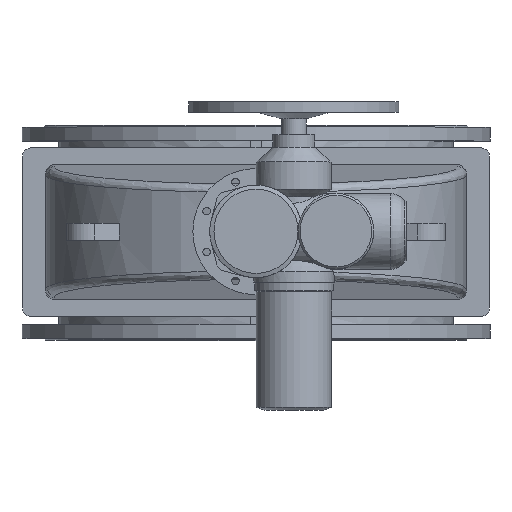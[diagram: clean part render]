
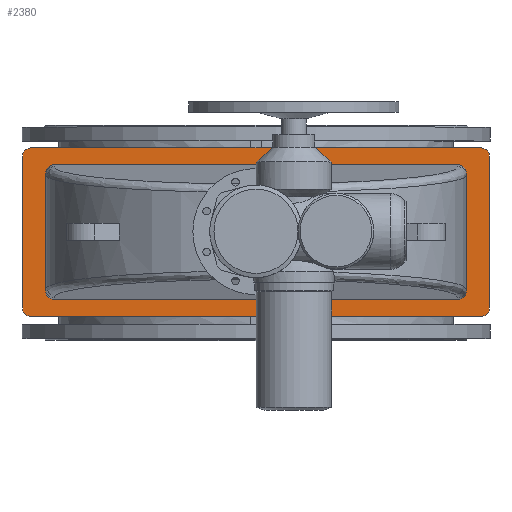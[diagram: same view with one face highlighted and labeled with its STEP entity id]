
A CAD part, top view. The second image highlights one B-rep face of the part: STEP entity #2380.
In plain terms, the highlighted planar face has unit normal (0, 0, 1).
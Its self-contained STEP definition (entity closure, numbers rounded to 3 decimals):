
#2380=ADVANCED_FACE('',(#8138,#8140),#8142,.T.);
#8138=FACE_BOUND('',#8139,.T.);
#8139=EDGE_LOOP('',(#11024,#11025,#11026,#11027,#11028,#11029,#11030,#11031));
#8140=FACE_BOUND('',#8141,.T.);
#8141=EDGE_LOOP('',(#11032,#11033,#11034,#11035,#11036,#11037,#11038,#11039));
#8142=PLANE('',#8143);
#8143=AXIS2_PLACEMENT_3D('',#8144,#8145,#8146);
#8144=CARTESIAN_POINT('',(0.,0.,1016.));
#8145=DIRECTION('',(0.,-0.,1.));
#8146=DIRECTION('',(0.,1.,0.));
#11024=ORIENTED_EDGE('',*,*,#12160,.F.);
#11025=ORIENTED_EDGE('',*,*,#12173,.T.);
#11026=ORIENTED_EDGE('',*,*,#12172,.F.);
#11027=ORIENTED_EDGE('',*,*,#12170,.T.);
#11028=ORIENTED_EDGE('',*,*,#12168,.F.);
#11029=ORIENTED_EDGE('',*,*,#12166,.T.);
#11030=ORIENTED_EDGE('',*,*,#12164,.F.);
#11031=ORIENTED_EDGE('',*,*,#12161,.T.);
#11032=ORIENTED_EDGE('',*,*,#12174,.F.);
#11033=ORIENTED_EDGE('',*,*,#12175,.F.);
#11034=ORIENTED_EDGE('',*,*,#12176,.F.);
#11035=ORIENTED_EDGE('',*,*,#12177,.F.);
#11036=ORIENTED_EDGE('',*,*,#12178,.F.);
#11037=ORIENTED_EDGE('',*,*,#12179,.F.);
#11038=ORIENTED_EDGE('',*,*,#12180,.F.);
#11039=ORIENTED_EDGE('',*,*,#12181,.F.);
#12160=EDGE_CURVE('',#13446,#13444,#13448,.F.);
#12161=EDGE_CURVE('',#13449,#13444,#13450,.T.);
#12164=EDGE_CURVE('',#13449,#13452,#13454,.F.);
#12166=EDGE_CURVE('',#13455,#13452,#13457,.T.);
#12168=EDGE_CURVE('',#13455,#13458,#13460,.F.);
#12170=EDGE_CURVE('',#13461,#13458,#13463,.T.);
#12172=EDGE_CURVE('',#13461,#13464,#13466,.F.);
#12173=EDGE_CURVE('',#13446,#13464,#13467,.T.);
#12174=EDGE_CURVE('',#13468,#13469,#13470,.F.);
#12175=EDGE_CURVE('',#13471,#13468,#13472,.T.);
#12176=EDGE_CURVE('',#13473,#13471,#13474,.T.);
#12177=EDGE_CURVE('',#13475,#13473,#13476,.T.);
#12178=EDGE_CURVE('',#13477,#13475,#13478,.F.);
#12179=EDGE_CURVE('',#13479,#13477,#13480,.T.);
#12180=EDGE_CURVE('',#13481,#13479,#13482,.T.);
#12181=EDGE_CURVE('',#13469,#13481,#13483,.T.);
#13444=VERTEX_POINT('',#17076);
#13446=VERTEX_POINT('',#17080);
#13448=CIRCLE('',#17084,20.);
#13449=VERTEX_POINT('',#17088);
#13450=LINE('',#17089,#17090);
#13452=VERTEX_POINT('',#17095);
#13454=CIRCLE('',#17099,20.);
#13455=VERTEX_POINT('',#17103);
#13457=LINE('',#17107,#17108);
#13458=VERTEX_POINT('',#17110);
#13460=CIRCLE('',#17114,20.);
#13461=VERTEX_POINT('',#17118);
#13463=LINE('',#17122,#17123);
#13464=VERTEX_POINT('',#17125);
#13466=CIRCLE('',#17129,20.);
#13467=LINE('',#17133,#17134);
#13468=VERTEX_POINT('',#17136);
#13469=VERTEX_POINT('',#17137);
#13470=(BOUNDED_CURVE()B_SPLINE_CURVE(3,
(#17138,#17139,#17140,#17141),
.UNSPECIFIED.,.F.,.F.)B_SPLINE_CURVE_WITH_KNOTS((4,4),
(0.,1.),
.UNSPECIFIED.)CURVE()GEOMETRIC_REPRESENTATION_ITEM()RATIONAL_B_SPLINE_CURVE((1.,
0.805,0.805,1.))REPRESENTATION_ITEM(''));
#13471=VERTEX_POINT('',#17142);
#13472=LINE('',#17143,#17144);
#13473=VERTEX_POINT('',#17146);
#13474=(BOUNDED_CURVE()B_SPLINE_CURVE(3,
(#17147,#17148,#17149,#17150),
.UNSPECIFIED.,.F.,.F.)B_SPLINE_CURVE_WITH_KNOTS((4,4),
(0.,1.),
.UNSPECIFIED.)CURVE()GEOMETRIC_REPRESENTATION_ITEM()RATIONAL_B_SPLINE_CURVE((1.,
0.805,0.805,1.))REPRESENTATION_ITEM(''));
#13475=VERTEX_POINT('',#17151);
#13476=LINE('',#17152,#17153);
#13477=VERTEX_POINT('',#17155);
#13478=(BOUNDED_CURVE()B_SPLINE_CURVE(3,
(#17156,#17157,#17158,#17159),
.UNSPECIFIED.,.F.,.F.)B_SPLINE_CURVE_WITH_KNOTS((4,4),
(0.,1.),
.UNSPECIFIED.)CURVE()GEOMETRIC_REPRESENTATION_ITEM()RATIONAL_B_SPLINE_CURVE((1.,
0.805,0.805,1.))REPRESENTATION_ITEM(''));
#13479=VERTEX_POINT('',#17160);
#13480=LINE('',#17161,#17162);
#13481=VERTEX_POINT('',#17164);
#13482=(BOUNDED_CURVE()B_SPLINE_CURVE(3,
(#17165,#17166,#17167,#17168),
.UNSPECIFIED.,.F.,.F.)B_SPLINE_CURVE_WITH_KNOTS((4,4),
(0.,1.),
.UNSPECIFIED.)CURVE()GEOMETRIC_REPRESENTATION_ITEM()RATIONAL_B_SPLINE_CURVE((1.,
0.805,0.805,1.))REPRESENTATION_ITEM(''));
#13483=LINE('',#17169,#17170);
#17076=CARTESIAN_POINT('',(-555.,-180.,1016.));
#17080=CARTESIAN_POINT('',(-535.,-200.,1016.));
#17084=AXIS2_PLACEMENT_3D('',#17085,#17086,#17087);
#17085=CARTESIAN_POINT('',(-535.,-180.,1016.));
#17086=DIRECTION('',(0.,-0.,1.));
#17087=DIRECTION('',(-1.,0.,0.));
#17088=CARTESIAN_POINT('',(-555.,180.,1016.));
#17089=CARTESIAN_POINT('',(-555.,180.,1016.));
#17090=VECTOR('',#17091,1.);
#17091=DIRECTION('',(0.,-1.,0.));
#17095=CARTESIAN_POINT('',(-535.,200.,1016.));
#17099=AXIS2_PLACEMENT_3D('',#17100,#17101,#17102);
#17100=CARTESIAN_POINT('',(-535.,180.,1016.));
#17101=DIRECTION('',(0.,-0.,1.));
#17102=DIRECTION('',(0.,1.,0.));
#17103=CARTESIAN_POINT('',(535.,200.,1016.));
#17107=CARTESIAN_POINT('',(535.,200.,1016.));
#17108=VECTOR('',#17109,1.);
#17109=DIRECTION('',(-1.,0.,0.));
#17110=CARTESIAN_POINT('',(555.,180.,1016.));
#17114=AXIS2_PLACEMENT_3D('',#17115,#17116,#17117);
#17115=CARTESIAN_POINT('',(535.,180.,1016.));
#17116=DIRECTION('',(0.,-0.,1.));
#17117=DIRECTION('',(1.,0.,0.));
#17118=CARTESIAN_POINT('',(555.,-180.,1016.));
#17122=CARTESIAN_POINT('',(555.,-180.,1016.));
#17123=VECTOR('',#17124,1.);
#17124=DIRECTION('',(0.,1.,0.));
#17125=CARTESIAN_POINT('',(535.,-200.,1016.));
#17129=AXIS2_PLACEMENT_3D('',#17130,#17131,#17132);
#17130=CARTESIAN_POINT('',(535.,-180.,1016.));
#17131=DIRECTION('',(0.,-0.,1.));
#17132=DIRECTION('',(0.,-1.,0.));
#17133=CARTESIAN_POINT('',(-535.,-200.,1016.));
#17134=VECTOR('',#17135,1.);
#17135=DIRECTION('',(1.,0.,0.));
#17136=CARTESIAN_POINT('',(480.,-160.,1016.));
#17137=CARTESIAN_POINT('',(500.,-139.924,1016.));
#17138=CARTESIAN_POINT('',(500.,-139.924,1016.));
#17139=CARTESIAN_POINT('',(500.,-151.684,1016.));
#17140=CARTESIAN_POINT('',(491.716,-160.,1016.));
#17141=CARTESIAN_POINT('',(480.,-160.,1016.));
#17142=CARTESIAN_POINT('',(-480.,-160.,1016.));
#17143=CARTESIAN_POINT('',(-480.,-160.,1016.));
#17144=VECTOR('',#17145,1.);
#17145=DIRECTION('',(1.,0.,0.));
#17146=CARTESIAN_POINT('',(-500.,-139.924,1016.));
#17147=CARTESIAN_POINT('',(-500.,-139.924,1016.));
#17148=CARTESIAN_POINT('',(-500.,-151.684,1016.));
#17149=CARTESIAN_POINT('',(-491.716,-160.,1016.));
#17150=CARTESIAN_POINT('',(-480.,-160.,1016.));
#17151=CARTESIAN_POINT('',(-500.,139.924,1016.));
#17152=CARTESIAN_POINT('',(-500.,139.924,1016.));
#17153=VECTOR('',#17154,1.);
#17154=DIRECTION('',(0.,-1.,0.));
#17155=CARTESIAN_POINT('',(-480.,160.,1016.));
#17156=CARTESIAN_POINT('',(-500.,139.924,1016.));
#17157=CARTESIAN_POINT('',(-500.,151.684,1016.));
#17158=CARTESIAN_POINT('',(-491.716,160.,1016.));
#17159=CARTESIAN_POINT('',(-480.,160.,1016.));
#17160=CARTESIAN_POINT('',(480.,160.,1016.));
#17161=CARTESIAN_POINT('',(480.,160.,1016.));
#17162=VECTOR('',#17163,1.);
#17163=DIRECTION('',(-1.,0.,0.));
#17164=CARTESIAN_POINT('',(500.,139.924,1016.));
#17165=CARTESIAN_POINT('',(500.,139.924,1016.));
#17166=CARTESIAN_POINT('',(500.,151.684,1016.));
#17167=CARTESIAN_POINT('',(491.716,160.,1016.));
#17168=CARTESIAN_POINT('',(480.,160.,1016.));
#17169=CARTESIAN_POINT('',(500.,-139.924,1016.));
#17170=VECTOR('',#17171,1.);
#17171=DIRECTION('',(0.,1.,0.));
